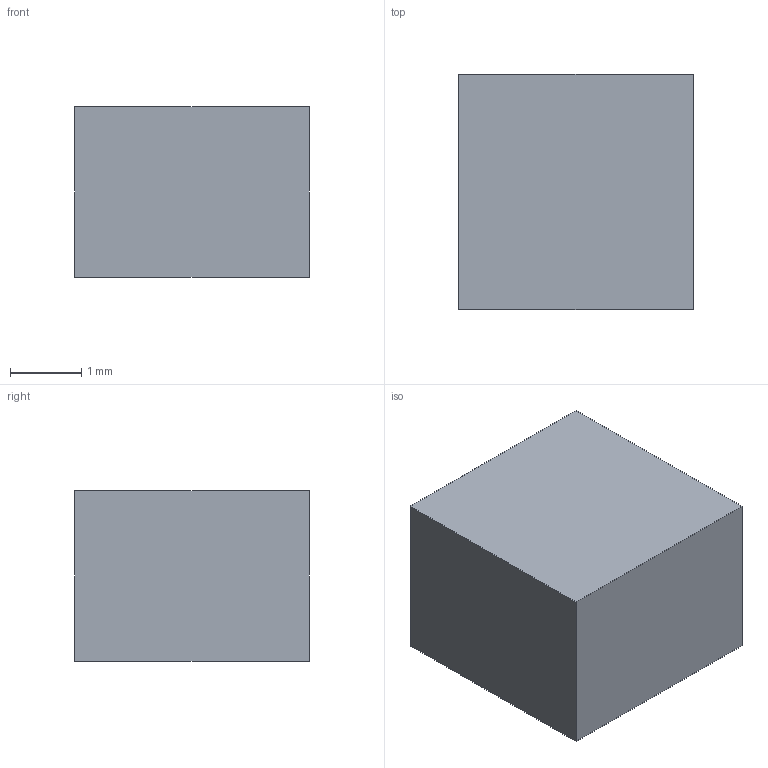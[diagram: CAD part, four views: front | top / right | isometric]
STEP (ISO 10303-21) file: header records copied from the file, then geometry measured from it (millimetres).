
FILE_DESCRIPTION(('Open CASCADE Model'),'2;1');
FILE_NAME('Open CASCADE Shape Model','2026-09-15T14:24:32',('Author'),( 'Open CASCADE'),'Open CASCADE STEP processor 7.7','Open CASCADE 7.7' ,'Unknown');
FILE_SCHEMA(('AUTOMOTIVE_DESIGN { 1 0 10303 214 1 1 1 1 }'));
Length unit declared in the file: millimetre
Products named in the file (1): Open CASCADE STEP translator 7.7 63
Bounding box: 3.3 x 3.3 x 2.4 mm (x, y, z)
Volume: 26.1 mm3; surface area: 53.5 mm2
Topology: 1 solids, 1 shells, 6 faces, 12 edges, 8 vertices
Faces by surface type: plane 6
Entity records: 322 total; most frequent: CARTESIAN_POINT 51, DIRECTION 50, LINE 36, VECTOR 36, ORIENTED_EDGE 24, PCURVE 24, DEFINITIONAL_REPRESENTATION 24, EDGE_CURVE 12
